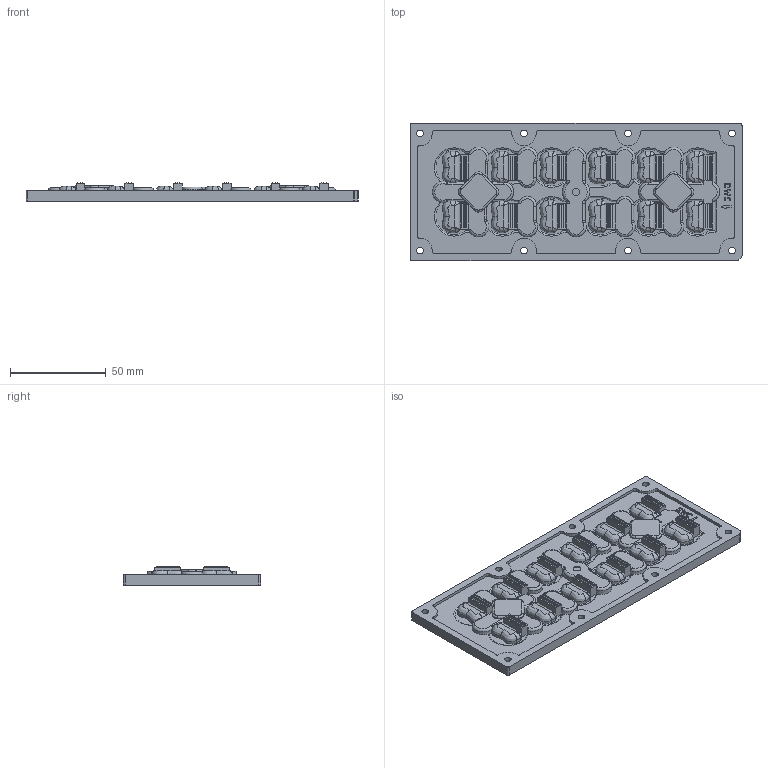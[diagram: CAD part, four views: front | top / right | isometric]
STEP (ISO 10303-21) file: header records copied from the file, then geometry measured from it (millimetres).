
FILE_DESCRIPTION(('Creo Elements/Direct Modeling STEP Export'),'2;1');
FILE_NAME('95602_2022_05_09.stp','2022-05-09T11:51:05',(''),(''),'Creo Elements/Direct Modeling STEP processor for AP214 (Solid Model)','Creo Elements/Direct Modeling 20.1B 02-Apr-2019 (C) Parametric Technology GmbH','');
FILE_SCHEMA(('AUTOMOTIVE_DESIGN { 1 0 10303 214 1 1 1 1 }'));
Products named in the file (1): 95602
Bounding box: 173 x 71.4 x 10.07 mm (x, y, z)
Volume: 48498.7 mm3; surface area: 37701.8 mm2
Topology: 1 solids, 1 shells, 1377 faces, 3670 edges, 2372 vertices
Faces by surface type: plane 754, cylinder 270, bspline 156, cone 86, extrusion 62, torus 49
Entity records: 152294 total; most frequent: CARTESIAN_POINT 119091, ORIENTED_EDGE 7340, DIRECTION 5753, EDGE_CURVE 3670, VERTEX_POINT 2372, VECTOR 2181, LINE 2119, AXIS2_PLACEMENT_3D 1786
